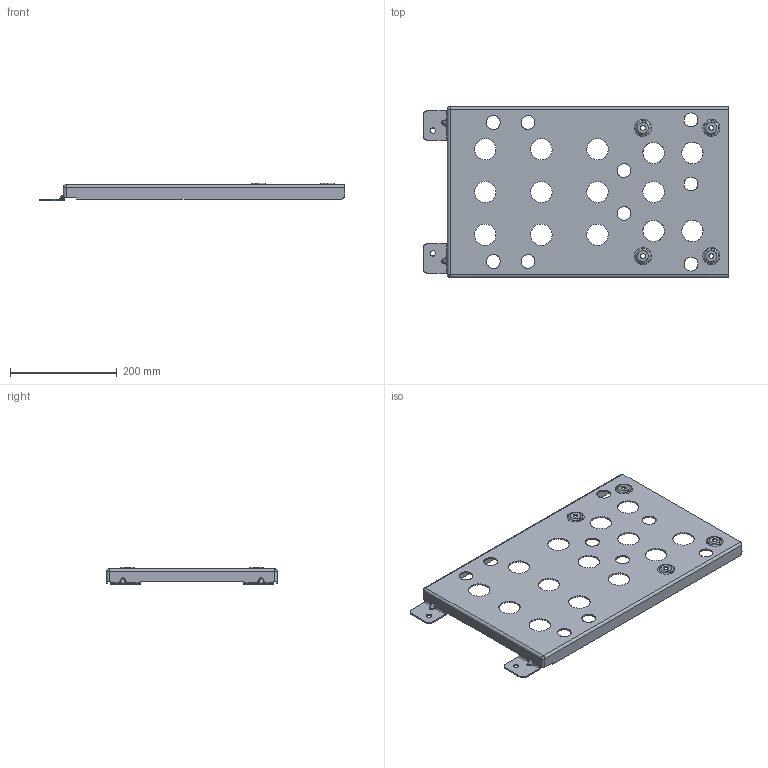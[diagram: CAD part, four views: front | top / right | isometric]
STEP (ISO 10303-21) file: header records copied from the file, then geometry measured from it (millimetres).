
FILE_DESCRIPTION(('CATIA V5 STEP Exchange'),'2;1');
FILE_NAME('D:\杨逍（新）\06-李燕龙\2023.1.9-G3新开件2D图纸-李燕龙\钣金单件图纸\SHT0015320-G3副司机座椅底支架上板\SHT0015320.stp','2023-01-11T06:35:11+00:00',('none'),('none'),'CATIA Version 5 Release 20 GA (IN-10)','CATIA V5 STEP AP214','none');
FILE_SCHEMA(('AUTOMOTIVE_DESIGN { 1 0 10303 214 1 1 1 1 }'));
Length unit declared in the file: millimetre
Products named in the file (1): G3副司机座椅底支架上板
Bounding box: 571.5 x 320 x 33.01 mm (x, y, z)
Volume: 454946.3 mm3; surface area: 375521.4 mm2
Topology: 1 solids, 1 shells, 261 faces, 687 edges, 420 vertices
Faces by surface type: cylinder 123, torus 64, plane 42, sphere 20, bspline 12
Entity records: 10619 total; most frequent: CARTESIAN_POINT 4891, ORIENTED_EDGE 1342, DIRECTION 834, EDGE_CURVE 671, VERTEX_POINT 420, AXIS2_PLACEMENT_3D 407, EDGE_LOOP 327, B_SPLINE_CURVE_WITH_KNOTS 293
